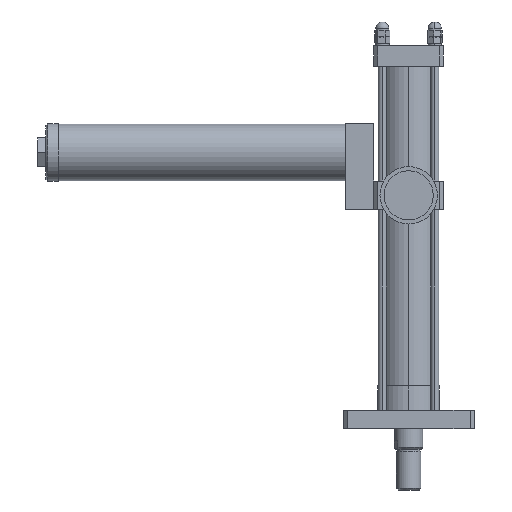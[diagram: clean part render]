
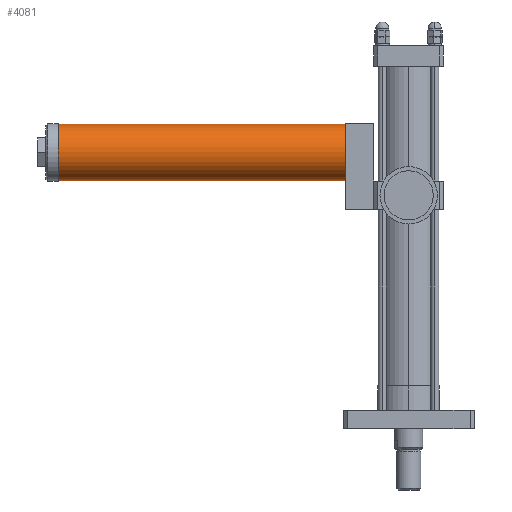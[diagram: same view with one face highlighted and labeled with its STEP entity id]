
A CAD part, left-side view. The second image highlights one B-rep face of the part: STEP entity #4081.
In plain terms, the highlighted cylindrical face has radius 34.5 mm (diameter 69 mm), a partial arc.
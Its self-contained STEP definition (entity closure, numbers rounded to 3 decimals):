
#113 = CARTESIAN_POINT ( 'NONE',  ( 0., 77.5, 337. ) ) ;
#344 = CIRCLE ( 'NONE', #3475, 34.5 ) ;
#411 = VERTEX_POINT ( 'NONE', #3243 ) ;
#571 = LINE ( 'NONE', #2717, #5627 ) ;
#748 = CIRCLE ( 'NONE', #5970, 34.5 ) ;
#1017 = DIRECTION ( 'NONE',  ( 0., -1., 0. ) ) ;
#1403 = DIRECTION ( 'NONE',  ( 0., 0., -1. ) ) ;
#1895 = VERTEX_POINT ( 'NONE', #2808 ) ;
#2027 = VERTEX_POINT ( 'NONE', #2999 ) ;
#2447 = FACE_OUTER_BOUND ( 'NONE', #3415, .T. ) ;
#2594 = AXIS2_PLACEMENT_3D ( 'NONE', #6828, #3547, #1403 ) ;
#2717 = CARTESIAN_POINT ( 'NONE',  ( 0., 427.5, 302.5 ) ) ;
#2725 = ORIENTED_EDGE ( 'NONE', *, *, #4381, .T. ) ;
#2764 = LINE ( 'NONE', #5007, #3670 ) ;
#2808 = CARTESIAN_POINT ( 'NONE',  ( 0., 77.5, 302.5 ) ) ;
#2999 = CARTESIAN_POINT ( 'NONE',  ( 0., 427.5, 302.5 ) ) ;
#3243 = CARTESIAN_POINT ( 'NONE',  ( 0., 77.5, 371.5 ) ) ;
#3415 = EDGE_LOOP ( 'NONE', ( #3881, #5412, #3783, #2725 ) ) ;
#3475 = AXIS2_PLACEMENT_3D ( 'NONE', #4952, #4372, #7136 ) ;
#3547 = DIRECTION ( 'NONE',  ( 0., -1., 0. ) ) ;
#3576 = DIRECTION ( 'NONE',  ( 0., 0., -1. ) ) ;
#3670 = VECTOR ( 'NONE', #4537, 1000. ) ;
#3783 = ORIENTED_EDGE ( 'NONE', *, *, #4705, .T. ) ;
#3881 = ORIENTED_EDGE ( 'NONE', *, *, #5640, .F. ) ;
#3890 = CARTESIAN_POINT ( 'NONE',  ( 0., 427.5, 371.5 ) ) ;
#3977 = DIRECTION ( 'NONE',  ( 0., 1., 0. ) ) ;
#4081 = ADVANCED_FACE ( 'NONE', ( #2447 ), #6274, .T. ) ;
#4372 = DIRECTION ( 'NONE',  ( 0., 1., 0. ) ) ;
#4381 = EDGE_CURVE ( 'NONE', #1895, #411, #748, .T. ) ;
#4537 = DIRECTION ( 'NONE',  ( 0., -1., 0. ) ) ;
#4705 = EDGE_CURVE ( 'NONE', #2027, #1895, #571, .T. ) ;
#4952 = CARTESIAN_POINT ( 'NONE',  ( 0., 427.5, 337. ) ) ;
#5007 = CARTESIAN_POINT ( 'NONE',  ( 0., 427.5, 371.5 ) ) ;
#5090 = VERTEX_POINT ( 'NONE', #3890 ) ;
#5412 = ORIENTED_EDGE ( 'NONE', *, *, #6403, .F. ) ;
#5627 = VECTOR ( 'NONE', #1017, 1000. ) ;
#5640 = EDGE_CURVE ( 'NONE', #5090, #411, #2764, .T. ) ;
#5970 = AXIS2_PLACEMENT_3D ( 'NONE', #113, #3977, #3576 ) ;
#6274 = CYLINDRICAL_SURFACE ( 'NONE', #2594, 34.5 ) ;
#6403 = EDGE_CURVE ( 'NONE', #2027, #5090, #344, .T. ) ;
#6828 = CARTESIAN_POINT ( 'NONE',  ( 0., 427.5, 337. ) ) ;
#7136 = DIRECTION ( 'NONE',  ( 0., 0., 1. ) ) ;
